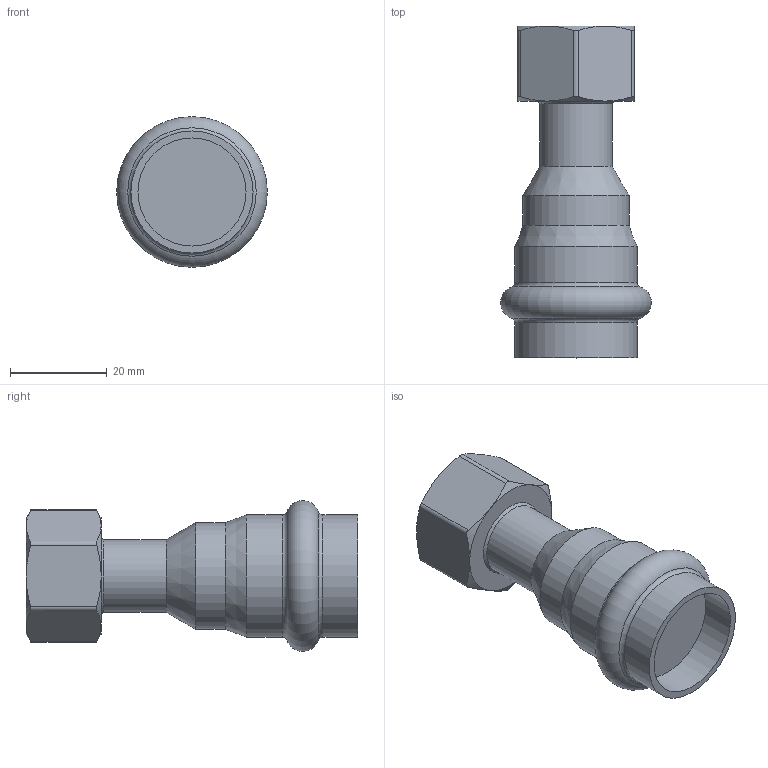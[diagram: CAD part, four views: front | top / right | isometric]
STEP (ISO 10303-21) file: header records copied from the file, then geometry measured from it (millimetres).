
FILE_DESCRIPTION(('STEP AP203'), '1');
FILE_NAME('VTi.908.I.002204', '', ('UNSPECIFIED'), ('UNSPECIFIED'), 'C3D Converter', 'C3D Toolkit', '');
FILE_SCHEMA(('CONFIG_CONTROL_DESIGN'));
Length unit declared in the file: millimetre
Bounding box: 31.1 x 68.5 x 31.1 mm (x, y, z)
Volume: 23577.3 mm3; surface area: 7442.9 mm2
Topology: 1 solids, 1 shells, 41 faces, 88 edges, 52 vertices
Faces by surface type: cone 15, cylinder 12, plane 11, torus 3
Full cylindrical faces by diameter (mm): 15 x1, 18.632 x1, 22 x1, 22.3 x1, 25.2 x2
Entity records: 1885 total; most frequent: CARTESIAN_POINT 1059, DIRECTION 152, ORIENTED_EDGE 150, EDGE_CURVE 75, AXIS2_PLACEMENT_3D 70, EDGE_LOOP 57, VERTEX_POINT 52, ADVANCED_FACE 41
